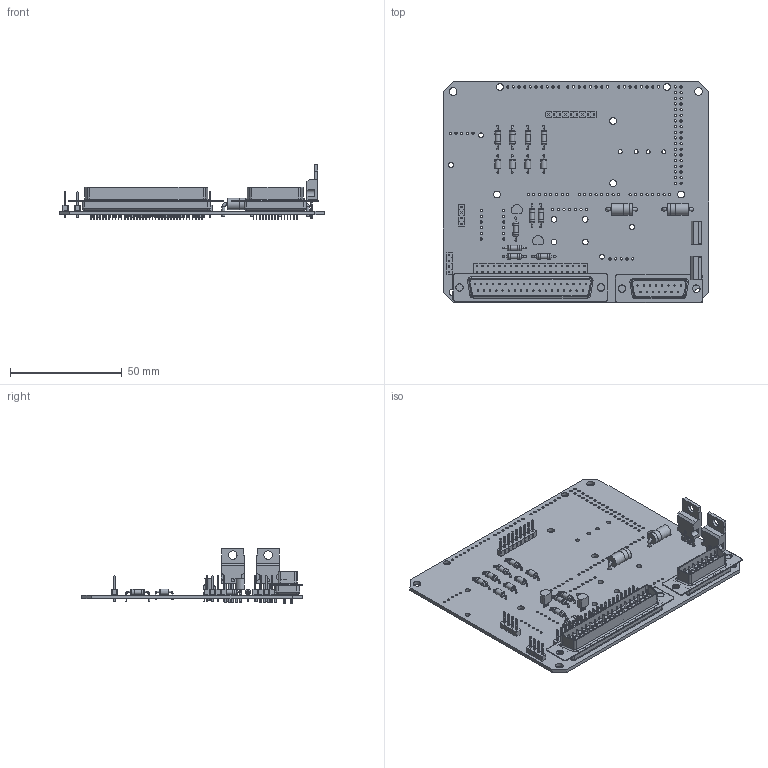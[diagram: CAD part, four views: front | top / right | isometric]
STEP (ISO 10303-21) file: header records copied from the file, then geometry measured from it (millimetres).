
FILE_DESCRIPTION(('KiCad electronic assembly'),'2;1');
FILE_NAME('Deck_Plate_PCB.step','2020-04-13T23:59:09',('An Author'),( 'A Company'),'Open CASCADE STEP processor 6.9', 'KiCad to STEP converter','Unknown');
FILE_SCHEMA(('AUTOMOTIVE_DESIGN { 1 0 10303 214 1 1 1 1 }'));
Length unit declared in the file: millimetre
Products named in the file (25): Open CASCADE STEP translator 6.9 1; DSUB-37_Male_Vertical_P2.77x2.84mm; COMPOUND; R_Axial_DIN0207_L6.3mm_D2.5mm_P10.16mm_Horizontal; SOLID; C_Axial_L3.8mm_D2.6mm_P7.50mm_Horizontal; PinHeader_2x20_P2.54mm_Vertical; PinHeader_1x04_P2.54mm_Vertical; D_DO-201AD_P12.70mm_Horizontal; PinHeader_1x09_P2.54mm_Vertical; DSUB-15_Male_Vertical_P2.77x2.84mm; TO-220-5_Vertical; TO-92_Inline; Socket_header_Arduino_2x18; Socket_header_Arduino_1x08; Socket_header_Arduino_1x10
Assembly tree (44 placements, depth 3):
  Open CASCADE STEP translator 6.9 1
    DSUB-37_Male_Vertical_P2.77x2.84mm
      COMPOUND
    R_Axial_DIN0207_L6.3mm_D2.5mm_P10.16mm_Horizontal  x10
      SOLID
    C_Axial_L3.8mm_D2.6mm_P7.50mm_Horizontal  x4
      SOLID
    PinHeader_2x20_P2.54mm_Vertical
      SOLID
    PinHeader_1x04_P2.54mm_Vertical  x2
      SOLID
    D_DO-201AD_P12.70mm_Horizontal  x2
      SOLID
    PinHeader_1x09_P2.54mm_Vertical
      SOLID
    DSUB-15_Male_Vertical_P2.77x2.84mm
      COMPOUND
    TO-220-5_Vertical  x2
      SOLID
    TO-92_Inline  x2
      SOLID
    Socket_header_Arduino_2x18
    Socket_header_Arduino_1x08  x5
    Socket_header_Arduino_1x10
    COMPOUND
Bounding box: 119.13 x 99.21 x 24.75 mm (x, y, z)
Volume: 27177.2 mm3; surface area: 38707.8 mm2
Topology: 29 solids, 31 shells, 2566 faces, 5858 edges, 3652 vertices
Faces by surface type: plane 1708, cylinder 650, revolution 116, torus 76, cone 8, sphere 8
Full cylindrical faces by diameter (mm): 0.3 x52, 0.5 x16, 0.6 x144, 0.75 x6, 0.8 x28, 1 x109, 1.016 x86, 1.02 x29, 1.1 x10, 1.3 x8, 1.5 x2, 1.6 x4, 1.8 x4, 2.2 x4, 2.25 x10, 2.34 x8, 2.5 x24, 2.6 x4, 3.048 x6, 3.2 x4, 3.5 x4, 3.8 x2, 5.2 x4, 5.22 x2
Entity records: 145550 total; most frequent: CARTESIAN_POINT 26582, DIRECTION 20120, LINE 12734, VECTOR 12734, ORIENTED_EDGE 10106, PCURVE 10106, DEFINITIONAL_REPRESENTATION 10106, EDGE_CURVE 5053
